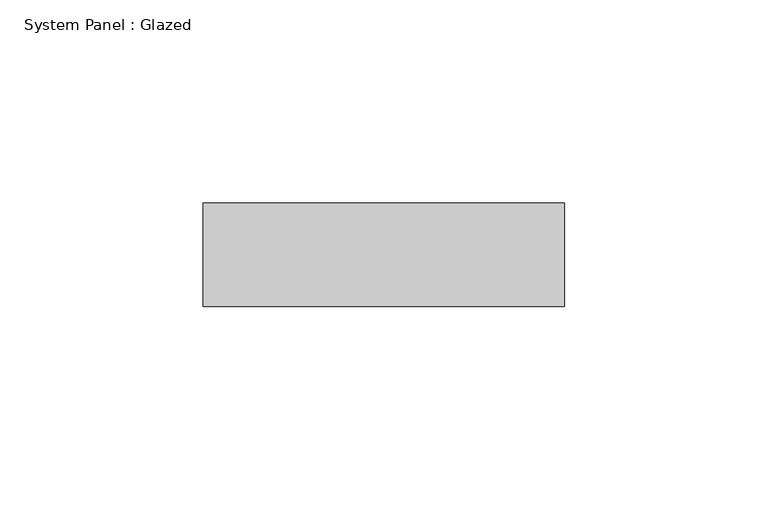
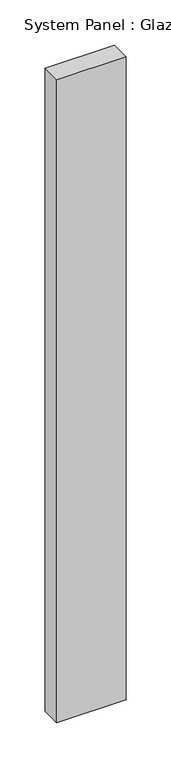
"""IFC4 building model written with IfcOpenShell, lengths in millimetres: plate geometry, System Panel : Glazed."""

from ifc_helpers import new_model, si_unit, origin, origin_with_axes, place, context, project, spatial, polyline, outline, extrude, source, transform, mapped, element, save


def system_panel_glazed_47952c94(model_context):
    return source(origin(), model_context, "Body", "SweptSolid", [
        extrude(outline(polyline([(44.45, 19.05), (-44.45, 19.05), (-44.45, 44.45), (44.45, 44.45), (44.45, 19.05)])), origin_with_axes(), (0.0, 0.0, 1.0), 869.95),
    ])


if __name__ == "__main__":
    model = new_model("IFC4")
    model_context = context("Model", 3, world=origin())
    ifc_project = project(units=[si_unit("LENGTHUNIT", "METRE", prefix="MILLI")], contexts=[model_context])
    site = spatial("IfcSite", under=ifc_project)
    building = spatial("IfcBuilding", under=site)
    placement = place(None, origin())
    system_panel_glazed_shape = system_panel_glazed_47952c94(model_context)
    element("IfcPlate", 1, ObjectType="System Panel : Glazed", at=placement, inside=building, context=model_context, shape_type="MappedRepresentation", body=[
        mapped(system_panel_glazed_shape, transform((0.0, 0.0, 0.0), x_axis=(1.0, 0.0, 0.0), y_axis=(0.0, 1.0, 0.0), z_axis=(0.0, 0.0, 1.0))),
    ])
    save(model, "model.ifc")
